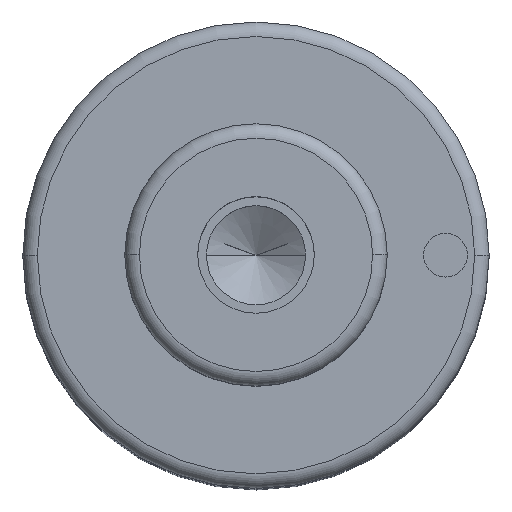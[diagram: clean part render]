
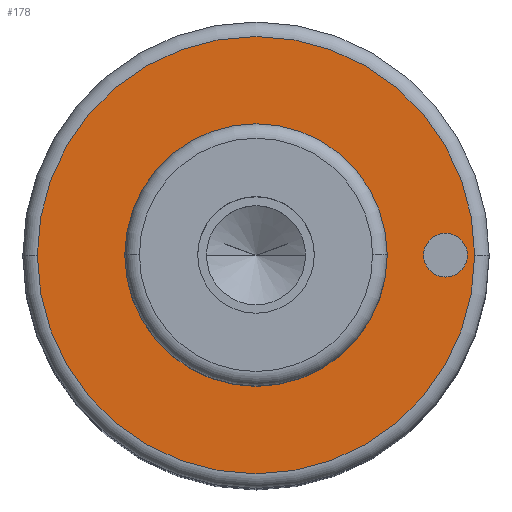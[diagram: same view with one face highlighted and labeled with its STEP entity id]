
A CAD part, top view. The second image highlights one B-rep face of the part: STEP entity #178.
In plain terms, the highlighted planar face has unit normal (0, 0, 1).
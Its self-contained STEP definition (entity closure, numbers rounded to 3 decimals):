
#105=PLANE('',#866);
#115=FACE_BOUND('',#283,.T.);
#116=FACE_BOUND('',#284,.T.);
#117=FACE_BOUND('',#285,.T.);
#178=ADVANCED_FACE('',(#115,#116,#117),#105,.T.);
#283=EDGE_LOOP('',(#473,#474));
#284=EDGE_LOOP('',(#475,#476));
#285=EDGE_LOOP('',(#477,#478));
#333=CIRCLE('',#834,9.);
#334=CIRCLE('',#836,9.);
#338=CIRCLE('',#841,15.);
#339=CIRCLE('',#843,15.);
#351=CIRCLE('',#864,1.5);
#352=CIRCLE('',#865,1.5);
#473=ORIENTED_EDGE('',*,*,#666,.F.);
#474=ORIENTED_EDGE('',*,*,#667,.F.);
#475=ORIENTED_EDGE('',*,*,#685,.F.);
#476=ORIENTED_EDGE('',*,*,#686,.F.);
#477=ORIENTED_EDGE('',*,*,#662,.T.);
#478=ORIENTED_EDGE('',*,*,#660,.T.);
#590=VERTEX_POINT('',#1233);
#591=VERTEX_POINT('',#1235);
#592=VERTEX_POINT('',#1241);
#595=VERTEX_POINT('',#1246);
#604=VERTEX_POINT('',#1285);
#605=VERTEX_POINT('',#1286);
#660=EDGE_CURVE('',#591,#590,#333,.T.);
#662=EDGE_CURVE('',#590,#591,#334,.T.);
#666=EDGE_CURVE('',#595,#592,#338,.T.);
#667=EDGE_CURVE('',#592,#595,#339,.T.);
#685=EDGE_CURVE('',#604,#605,#351,.T.);
#686=EDGE_CURVE('',#605,#604,#352,.T.);
#834=AXIS2_PLACEMENT_3D('',#1234,#985,#986);
#836=AXIS2_PLACEMENT_3D('',#1238,#990,#991);
#841=AXIS2_PLACEMENT_3D('',#1247,#1000,#1001);
#843=AXIS2_PLACEMENT_3D('',#1249,#1004,#1005);
#864=AXIS2_PLACEMENT_3D('',#1284,#1052,#1053);
#865=AXIS2_PLACEMENT_3D('',#1287,#1054,#1055);
#866=AXIS2_PLACEMENT_3D('',#1288,#1056,#1057);
#985=DIRECTION('',(0.,0.,-1.));
#986=DIRECTION('',(0.,1.,0.));
#990=DIRECTION('',(0.,0.,-1.));
#991=DIRECTION('',(0.,-1.,0.));
#1000=DIRECTION('',(0.,0.,-1.));
#1001=DIRECTION('',(0.,1.,0.));
#1004=DIRECTION('',(0.,0.,-1.));
#1005=DIRECTION('',(0.,-1.,0.));
#1052=DIRECTION('',(0.,0.,1.));
#1053=DIRECTION('',(0.,1.,0.));
#1054=DIRECTION('',(0.,0.,1.));
#1055=DIRECTION('',(0.,-1.,0.));
#1056=DIRECTION('',(0.,0.,1.));
#1057=DIRECTION('',(0.,-1.,0.));
#1233=CARTESIAN_POINT('',(-9.,0.,63.));
#1234=CARTESIAN_POINT('',(0.,0.,63.));
#1235=CARTESIAN_POINT('',(9.,0.,63.));
#1238=CARTESIAN_POINT('',(0.,0.,63.));
#1241=CARTESIAN_POINT('',(-15.,0.,63.));
#1246=CARTESIAN_POINT('',(15.,0.,63.));
#1247=CARTESIAN_POINT('',(0.,0.,63.));
#1249=CARTESIAN_POINT('',(0.,0.,63.));
#1284=CARTESIAN_POINT('',(13.,0.,63.));
#1285=CARTESIAN_POINT('',(11.5,0.,63.));
#1286=CARTESIAN_POINT('',(14.5,0.,63.));
#1287=CARTESIAN_POINT('',(13.,0.,63.));
#1288=CARTESIAN_POINT('',(0.,0.,63.));
